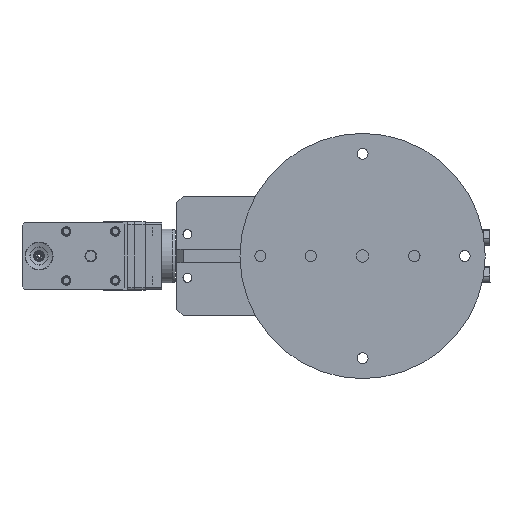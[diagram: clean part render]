
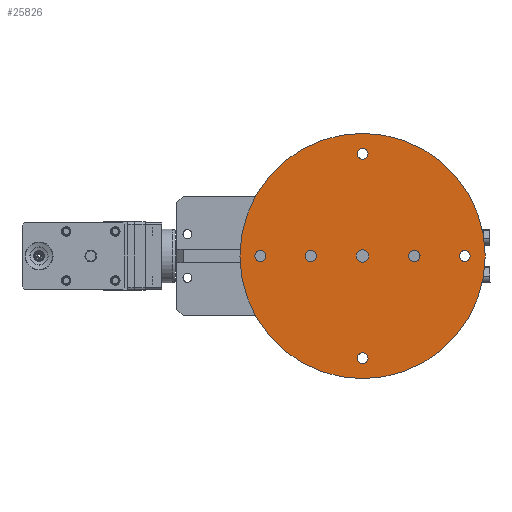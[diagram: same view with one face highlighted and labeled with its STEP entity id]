
A CAD part, front view. The second image highlights one B-rep face of the part: STEP entity #25826.
In plain terms, the highlighted planar face has unit normal (0, -1, 0) as drawn and (0, 0, 1) by its records, which use the part's own axes.
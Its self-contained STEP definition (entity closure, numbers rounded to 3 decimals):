
#1135=FACE_BOUND('',#3529,.T.);
#1136=FACE_BOUND('',#3530,.T.);
#1137=FACE_BOUND('',#3531,.T.);
#1138=FACE_BOUND('',#3532,.T.);
#1139=FACE_BOUND('',#3533,.T.);
#1140=FACE_BOUND('',#3534,.T.);
#1141=FACE_BOUND('',#3535,.T.);
#1932=FACE_OUTER_BOUND('',#3528,.T.);
#3528=EDGE_LOOP('',(#19305));
#3529=EDGE_LOOP('',(#19306));
#3530=EDGE_LOOP('',(#19307));
#3531=EDGE_LOOP('',(#19308));
#3532=EDGE_LOOP('',(#19309));
#3533=EDGE_LOOP('',(#19310));
#3534=EDGE_LOOP('',(#19311));
#3535=EDGE_LOOP('',(#19312));
#9611=CIRCLE('',#28019,4.);
#9615=CIRCLE('',#28026,4.);
#9619=CIRCLE('',#28033,4.);
#9623=CIRCLE('',#28040,4.);
#9627=CIRCLE('',#28046,90.);
#9631=CIRCLE('',#28052,4.5);
#9632=CIRCLE('',#28054,4.188);
#9633=CIRCLE('',#28056,4.188);
#11350=VERTEX_POINT('',#40553);
#11354=VERTEX_POINT('',#40566);
#11358=VERTEX_POINT('',#40579);
#11362=VERTEX_POINT('',#40592);
#11366=VERTEX_POINT('',#40604);
#11370=VERTEX_POINT('',#40615);
#11371=VERTEX_POINT('',#40619);
#11372=VERTEX_POINT('',#40623);
#14231=EDGE_CURVE('',#11350,#11350,#9611,.T.);
#14237=EDGE_CURVE('',#11354,#11354,#9615,.T.);
#14243=EDGE_CURVE('',#11358,#11358,#9619,.T.);
#14249=EDGE_CURVE('',#11362,#11362,#9623,.T.);
#14254=EDGE_CURVE('',#11366,#11366,#9627,.T.);
#14259=EDGE_CURVE('',#11370,#11370,#9631,.T.);
#14261=EDGE_CURVE('',#11371,#11371,#9632,.T.);
#14263=EDGE_CURVE('',#11372,#11372,#9633,.T.);
#19305=ORIENTED_EDGE('',*,*,#14254,.T.);
#19306=ORIENTED_EDGE('',*,*,#14231,.T.);
#19307=ORIENTED_EDGE('',*,*,#14237,.T.);
#19308=ORIENTED_EDGE('',*,*,#14243,.T.);
#19309=ORIENTED_EDGE('',*,*,#14249,.T.);
#19310=ORIENTED_EDGE('',*,*,#14263,.T.);
#19311=ORIENTED_EDGE('',*,*,#14261,.T.);
#19312=ORIENTED_EDGE('',*,*,#14259,.T.);
#24296=PLANE('',#28057);
#25826=ADVANCED_FACE('',(#1932,#1135,#1136,#1137,#1138,#1139,#1140,#1141),
#24296,.T.);
#28019=AXIS2_PLACEMENT_3D('',#40555,#32730,#32731);
#28026=AXIS2_PLACEMENT_3D('',#40568,#32746,#32747);
#28033=AXIS2_PLACEMENT_3D('',#40581,#32762,#32763);
#28040=AXIS2_PLACEMENT_3D('',#40594,#32778,#32779);
#28046=AXIS2_PLACEMENT_3D('',#40605,#32791,#32792);
#28052=AXIS2_PLACEMENT_3D('',#40616,#32804,#32805);
#28054=AXIS2_PLACEMENT_3D('',#40620,#32809,#32810);
#28056=AXIS2_PLACEMENT_3D('',#40624,#32814,#32815);
#28057=AXIS2_PLACEMENT_3D('',#40626,#32817,#32818);
#32730=DIRECTION('center_axis',(0.,0.,-1.));
#32731=DIRECTION('ref_axis',(0.,1.,0.));
#32746=DIRECTION('center_axis',(0.,0.,-1.));
#32747=DIRECTION('ref_axis',(1.,0.,0.));
#32762=DIRECTION('center_axis',(0.,0.,-1.));
#32763=DIRECTION('ref_axis',(0.,-1.,0.));
#32778=DIRECTION('center_axis',(0.,0.,-1.));
#32779=DIRECTION('ref_axis',(-1.,0.,0.));
#32791=DIRECTION('center_axis',(0.,0.,1.));
#32792=DIRECTION('ref_axis',(1.,0.,0.));
#32804=DIRECTION('center_axis',(0.,0.,-1.));
#32805=DIRECTION('ref_axis',(-1.,0.,0.));
#32809=DIRECTION('center_axis',(0.,0.,-1.));
#32810=DIRECTION('ref_axis',(-1.,0.,0.));
#32814=DIRECTION('center_axis',(0.,0.,-1.));
#32815=DIRECTION('ref_axis',(-1.,0.,0.));
#32817=DIRECTION('center_axis',(0.,0.,1.));
#32818=DIRECTION('ref_axis',(1.,0.,0.));
#40553=CARTESIAN_POINT('',(46.5,39.,15.));
#40555=CARTESIAN_POINT('Origin',(46.5,43.,15.));
#40566=CARTESIAN_POINT('',(117.5,-32.,15.));
#40568=CARTESIAN_POINT('Origin',(121.5,-32.,15.));
#40579=CARTESIAN_POINT('',(46.5,-103.,15.));
#40581=CARTESIAN_POINT('Origin',(46.5,-107.,15.));
#40592=CARTESIAN_POINT('',(-24.5,-32.,15.));
#40594=CARTESIAN_POINT('Origin',(-28.5,-32.,15.));
#40604=CARTESIAN_POINT('',(-43.5,-32.,15.));
#40605=CARTESIAN_POINT('Origin',(46.5,-32.,15.));
#40615=CARTESIAN_POINT('',(51.,-32.,15.));
#40616=CARTESIAN_POINT('Origin',(46.5,-32.,15.));
#40619=CARTESIAN_POINT('',(12.688,-32.,15.));
#40620=CARTESIAN_POINT('Origin',(8.5,-32.,15.));
#40623=CARTESIAN_POINT('',(88.688,-32.,15.));
#40624=CARTESIAN_POINT('Origin',(84.5,-32.,15.));
#40626=CARTESIAN_POINT('Origin',(46.5,-32.,15.));
